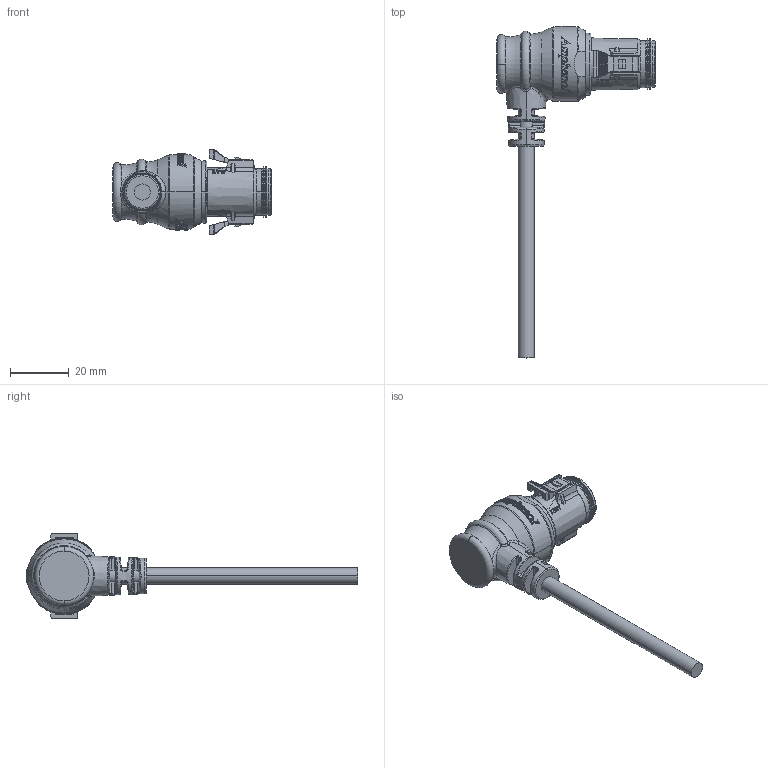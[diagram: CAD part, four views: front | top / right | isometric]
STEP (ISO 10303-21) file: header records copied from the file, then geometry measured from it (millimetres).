
FILE_DESCRIPTION((''),'2;1');
FILE_NAME('CD-04AMFM-RR7AXX_ASM_SW0001','2015-08-26T',('KS7307'),(''),'PRO/ENGINEER BY PARAMETRIC TECHNOLOGY CORPORATION, 2013050','PRO/ENGINEER BY PARAMETRIC TECHNOLOGY CORPORATION, 2013050','');
FILE_SCHEMA(('CONFIG_CONTROL_DESIGN'));
Length unit declared in the file: millimetre
Products named in the file (1): CD-04AMFM-RR7AXX_ASM_SW0001
Bounding box: 53.8 x 112.95 x 28.81 mm (x, y, z)
Volume: 21197.7 mm3; surface area: 8159.1 mm2
Topology: 1 solids, 4 shells, 1309 faces, 3665 edges, 2406 vertices
Faces by surface type: plane 723, extrusion 214, cylinder 187, bspline 100, cone 44, torus 35, sphere 6
Entity records: 52382 total; most frequent: CARTESIAN_POINT 22350, ORIENTED_EDGE 7306, DIRECTION 4442, EDGE_CURVE 3653, VERTEX_POINT 2406, B_SPLINE_CURVE_WITH_KNOTS 2082, VECTOR 1546, AXIS2_PLACEMENT_3D 1448
